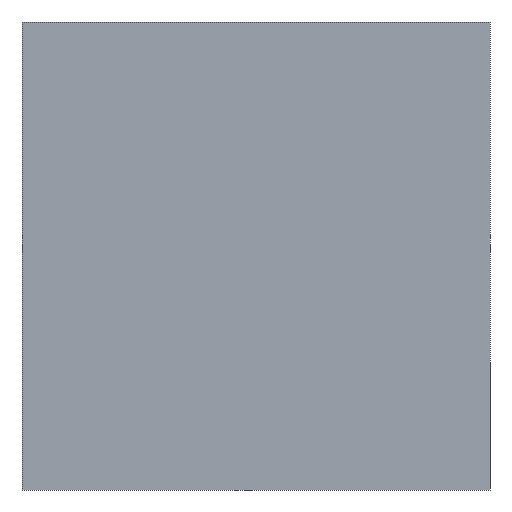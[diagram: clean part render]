
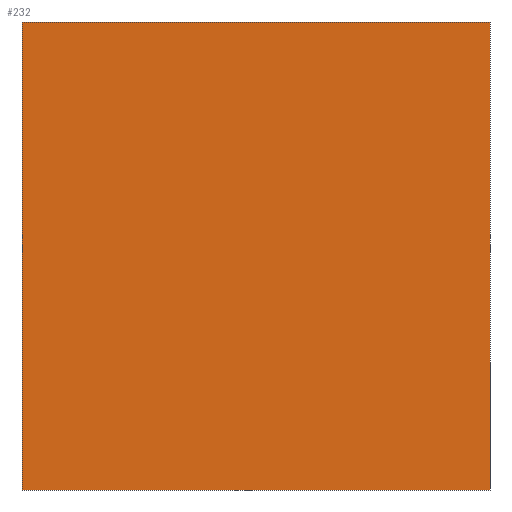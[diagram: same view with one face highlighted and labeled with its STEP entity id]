
A CAD part, front view. The second image highlights one B-rep face of the part: STEP entity #232.
In plain terms, the highlighted planar face has unit normal (0, -1, 0).
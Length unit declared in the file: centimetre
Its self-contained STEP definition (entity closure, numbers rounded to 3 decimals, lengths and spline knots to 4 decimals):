
#6 = CARTESIAN_POINT ( 'NONE',  ( 0., 0., 0. ) ) ;
#32 = CARTESIAN_POINT ( 'NONE',  ( 0., 0., 1000. ) ) ;
#34 = LINE ( 'NONE', #371, #200 ) ;
#35 = VERTEX_POINT ( 'NONE', #409 ) ;
#70 = EDGE_LOOP ( 'NONE', ( #475, #263, #137, #333 ) ) ;
#74 = VECTOR ( 'NONE', #103, 100. ) ;
#76 = CARTESIAN_POINT ( 'NONE',  ( 1000., 0., 1000. ) ) ;
#103 = DIRECTION ( 'NONE',  ( 1., 0., 0. ) ) ;
#108 = DIRECTION ( 'NONE',  ( 0., 0., 1. ) ) ;
#133 = EDGE_CURVE ( 'NONE', #278, #35, #428, .T. ) ;
#137 = ORIENTED_EDGE ( 'NONE', *, *, #464, .F. ) ;
#150 = FACE_OUTER_BOUND ( 'NONE', #70, .T. ) ;
#186 = CARTESIAN_POINT ( 'NONE',  ( 0., 0., 1000. ) ) ;
#199 = VERTEX_POINT ( 'NONE', #352 ) ;
#200 = VECTOR ( 'NONE', #454, 100. ) ;
#208 = AXIS2_PLACEMENT_3D ( 'NONE', #377, #460, #108 ) ;
#232 = ADVANCED_FACE ( 'NONE', ( #150 ), #302, .F. ) ;
#235 = VERTEX_POINT ( 'NONE', #186 ) ;
#242 = LINE ( 'NONE', #6, #74 ) ;
#246 = EDGE_CURVE ( 'NONE', #235, #199, #422, .T. ) ;
#263 = ORIENTED_EDGE ( 'NONE', *, *, #133, .F. ) ;
#278 = VERTEX_POINT ( 'NONE', #76 ) ;
#281 = DIRECTION ( 'NONE',  ( 0., 0., -1. ) ) ;
#302 = PLANE ( 'NONE',  #208 ) ;
#333 = ORIENTED_EDGE ( 'NONE', *, *, #246, .T. ) ;
#348 = VECTOR ( 'NONE', #281, 100. ) ;
#350 = EDGE_CURVE ( 'NONE', #199, #35, #242, .T. ) ;
#352 = CARTESIAN_POINT ( 'NONE',  ( 0., 0., 0. ) ) ;
#354 = CARTESIAN_POINT ( 'NONE',  ( 1000., 0., 1000. ) ) ;
#371 = CARTESIAN_POINT ( 'NONE',  ( 0., 0., 1000. ) ) ;
#377 = CARTESIAN_POINT ( 'NONE',  ( 0., 0., 1000. ) ) ;
#409 = CARTESIAN_POINT ( 'NONE',  ( 1000., 0., 0. ) ) ;
#422 = LINE ( 'NONE', #32, #465 ) ;
#428 = LINE ( 'NONE', #354, #348 ) ;
#454 = DIRECTION ( 'NONE',  ( 1., 0., 0. ) ) ;
#455 = DIRECTION ( 'NONE',  ( 0., 0., -1. ) ) ;
#460 = DIRECTION ( 'NONE',  ( 0., 1., 0. ) ) ;
#464 = EDGE_CURVE ( 'NONE', #235, #278, #34, .T. ) ;
#465 = VECTOR ( 'NONE', #455, 100. ) ;
#475 = ORIENTED_EDGE ( 'NONE', *, *, #350, .T. ) ;
